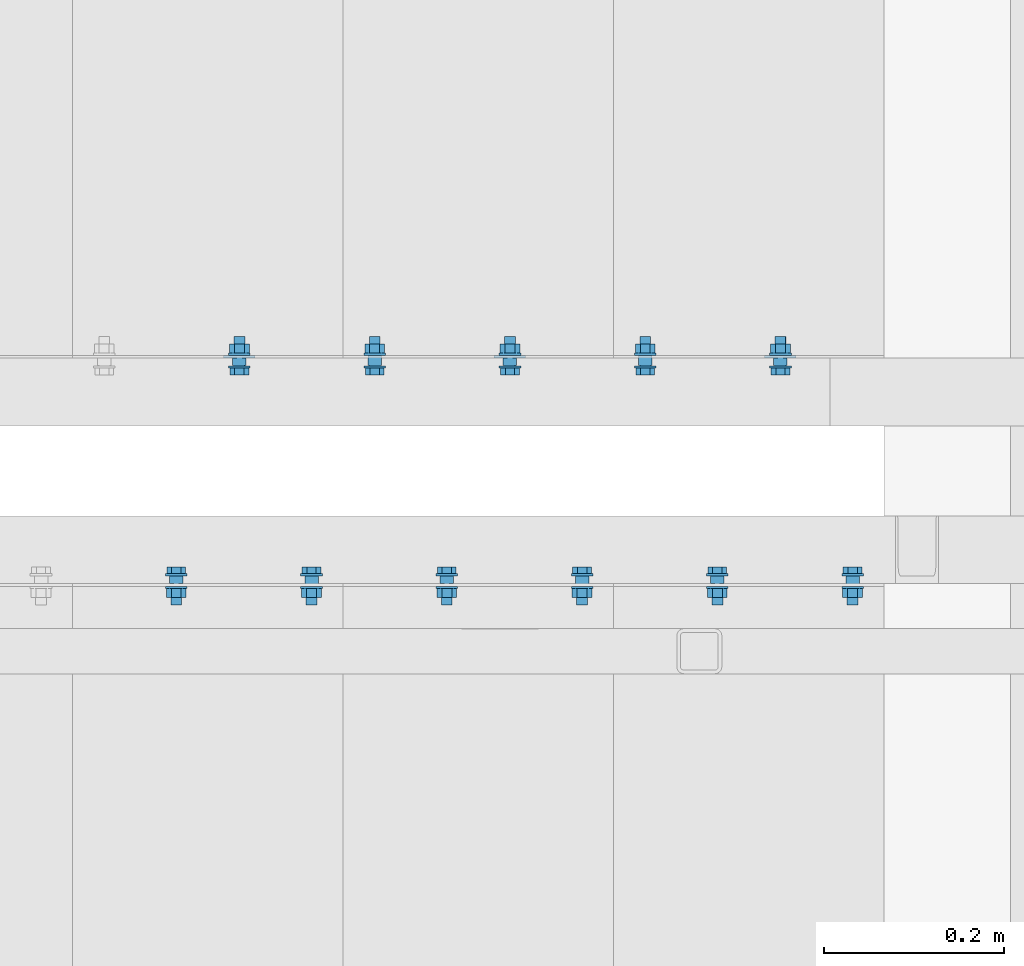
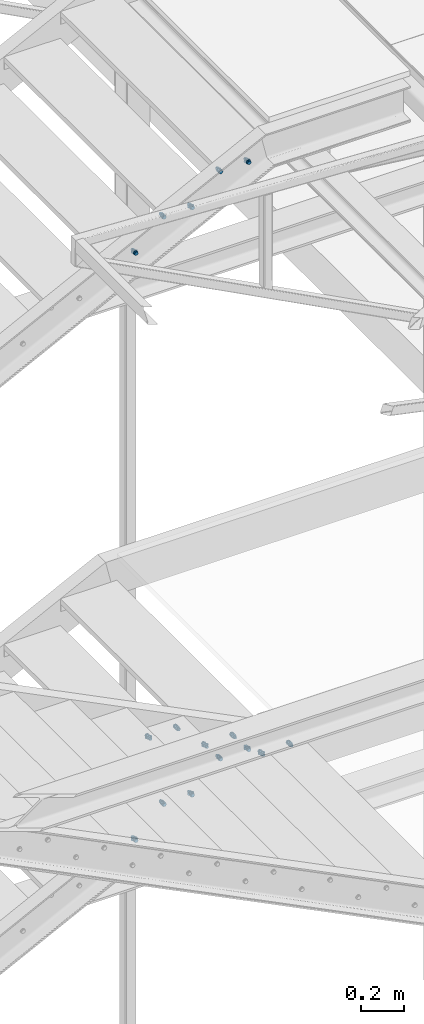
# One storey, part 108 of 132: 16 mechanical fasteners, 9 elements without a shape of their own.
"""IFC2X3 building model written with IfcOpenShell, lengths in millimetres."""

from ifc_helpers import new_model, si_unit, frame, frame_2d, origin_with_axes, origin_2d_with_axis, place, context, subcontext, project, spatial, polyline, circle_curve, parameter, trimmed, segment, composite_curve, circle, outline, extrude, source, transform, mapped, material, type_object, element, aggregate, save


model = new_model("IFC2X3")

# Units and contexts
model_context = context("Model", 3, precision=1e-05, world=origin_with_axes())
body_context = subcontext(model_context, "Body", "Model", "MODEL_VIEW")
ifc_project = project(units=[si_unit("LENGTHUNIT", "METRE", prefix="MILLI"), si_unit("AREAUNIT", "SQUARE_METRE"), si_unit("VOLUMEUNIT", "CUBIC_METRE"), si_unit("MASSUNIT", "GRAM", prefix="KILO"), si_unit("TIMEUNIT", "SECOND"), si_unit("PLANEANGLEUNIT", "RADIAN"), si_unit("SOLIDANGLEUNIT", "STERADIAN"), si_unit("THERMODYNAMICTEMPERATUREUNIT", "DEGREE_CELSIUS"), si_unit("LUMINOUSINTENSITYUNIT", "LUMEN")], contexts=[model_context])

# Site, building, storey
site_placement = place(None, origin_with_axes())
site = spatial("IfcSite", under=ifc_project, at=site_placement, Name="Budowa", CompositionType="ELEMENT")
building_placement = place(site_placement, origin_with_axes())
building = spatial("IfcBuilding", under=site, at=building_placement, Name="Undefined", CompositionType="ELEMENT")
storey_placement = place(building_placement, origin_with_axes())
storey = spatial("IfcBuildingStorey", under=building, at=storey_placement, Name="Undefined", CompositionType="ELEMENT", Elevation=0.0)

# Assembly, mechanical fastener
assembly_1_placement = place(storey_placement, origin_with_axes())
assembly_1 = element("IfcElementAssembly", 1, at=assembly_1_placement, inside=storey, Name="Steel Assembly", AssemblyPlace="NOTDEFINED", PredefinedType="RIGID_FRAME")
ifc_material = material(Name="Undefined")
discrete_accessory_type = type_object("IfcDiscreteAccessoryType", Name="Bolt assembly")
shared_shape_1 = source(origin_with_axes(), body_context, "Body", "SweptSolid", [
    extrude(circle(Radius=7.5, at=origin_2d_with_axis()), frame((0.0, -8.40000000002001, 0.0), z_axis=(0.0, 1.0, 0.0), x_axis=(1.0, 0.0, 0.0)), (0.0, 0.0, 1.0), 8.5),
    extrude(circle(Radius=7.5, at=origin_2d_with_axis()), frame((0.0, -0.1, 0.0), z_axis=(0.0, 1.0, 0.0), x_axis=(1.0, 0.0, 0.0)), (0.0, 0.0, 1.0), 3.1),
    extrude(outline(polyline([(10.39230484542, 0.0), (5.19615242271, 9.00000000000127), (-5.19615242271, 9.00000000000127), (-10.39230484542, 0.0), (-5.19615242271, -9.00000000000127), (5.19615242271, -9.00000000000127), (10.39230484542, 0.0)])), frame((0.0, -18.50000000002, 0.0), z_axis=(0.0, 1.0, 0.0), x_axis=(1.0, 0.0, 0.0)), (0.0, 0.0, 1.0), 7.5),
    extrude(circle(Radius=6.0, at=origin_2d_with_axis()), frame((0.0, -11.00000000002, 0.0), z_axis=(0.0, 1.0, 0.0), x_axis=(1.0, 0.0, 0.0)), (0.0, 0.0, 1.0), 35.0),
    extrude(circle(Radius=12.0, at=origin_2d_with_axis()), frame((0.0, -11.00000000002, 0.0), z_axis=(0.0, 1.0, 0.0), x_axis=(1.0, 0.0, 0.0)), (0.0, 0.0, 1.0), 2.5),
    extrude(circle(Radius=12.0, at=origin_2d_with_axis()), frame((0.0, 3.0, 0.0), z_axis=(0.0, 1.0, 0.0), x_axis=(1.0, 0.0, 0.0)), (0.0, 0.0, 1.0), 2.5),
    extrude(outline(polyline([(10.96965511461, 0.0), (5.484827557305, 9.50000000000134), (-5.484827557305, 9.50000000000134), (-10.96965511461, 0.0), (-5.484827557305, -9.50000000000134), (5.484827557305, -9.50000000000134), (10.96965511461, 0.0)])), frame((0.0, 5.5, 0.0), z_axis=(0.0, 1.0, 0.0), x_axis=(1.0, 0.0, 0.0)), (0.0, 0.0, 1.0), 10.0),
])
mechanical_fastener_1_placement = place(assembly_1_placement, frame((-820.00000008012, 9525.0000000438, 13849.9999999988), z_axis=(0.0, 0.0, -1.0), x_axis=(-1.0, 0.0, 0.0)))
mechanical_fastener_1 = element("IfcMechanicalFastener", 2, at=mechanical_fastener_1_placement, type_object=discrete_accessory_type, material=ifc_material, Name="Bolt assembly", NominalDiameter=12.0, NominalLength=35.0, context=body_context, shape_type="MappedRepresentation", body=[
    mapped(shared_shape_1, transform((265.0, 0.0, 25.0))),
])

assembly_2_placement = place(storey_placement, origin_with_axes())
assembly_2 = element("IfcElementAssembly", 3, at=assembly_2_placement, inside=storey, Name="Steel Assembly", AssemblyPlace="NOTDEFINED", PredefinedType="RIGID_FRAME")
mechanical_fastener_2_placement = place(assembly_2_placement, frame((-1120.00000008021, 9525.0000000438, 13699.9999999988), z_axis=(0.0, 0.0, -1.0), x_axis=(-1.0, 0.0, 0.0)))
mechanical_fastener_2 = element("IfcMechanicalFastener", 4, at=mechanical_fastener_2_placement, type_object=discrete_accessory_type, material=ifc_material, Name="Bolt assembly", NominalDiameter=12.0, NominalLength=35.0, context=body_context, shape_type="MappedRepresentation", body=[
    mapped(shared_shape_1, transform((265.0, 0.0, 25.0))),
])

assembly_3_placement = place(storey_placement, origin_with_axes())
assembly_3 = element("IfcElementAssembly", 5, at=assembly_3_placement, inside=storey, Name="Steel Assembly", AssemblyPlace="NOTDEFINED", PredefinedType="RIGID_FRAME")
mechanical_fastener_3_placement = place(assembly_3_placement, frame((-1720.00000007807, 9275.00000004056, 11000.0000000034), z_axis=(0.0, 0.0, -1.0), x_axis=(1.0, 0.0, 0.0)))
mechanical_fastener_3 = element("IfcMechanicalFastener", 6, at=mechanical_fastener_3_placement, type_object=discrete_accessory_type, material=ifc_material, Name="Bolt assembly", NominalDiameter=12.0, NominalLength=35.0, context=body_context, shape_type="MappedRepresentation", body=[
    mapped(shared_shape_1, transform((265.0, 0.0, 25.0))),
])

assembly_4_placement = place(storey_placement, origin_with_axes())
assembly_4 = element("IfcElementAssembly", 7, at=assembly_4_placement, inside=storey, Name="Steel Assembly", AssemblyPlace="NOTDEFINED", PredefinedType="RIGID_FRAME")
mechanical_fastener_4_placement = place(assembly_4_placement, frame((-1420.00000007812, 9275.00000004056, 10850.0000000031), z_axis=(0.0, 0.0, -1.0), x_axis=(1.0, 0.0, 0.0)))
mechanical_fastener_4 = element("IfcMechanicalFastener", 8, at=mechanical_fastener_4_placement, type_object=discrete_accessory_type, material=ifc_material, Name="Bolt assembly", NominalDiameter=12.0, NominalLength=35.0, context=body_context, shape_type="MappedRepresentation", body=[
    mapped(shared_shape_1, transform((265.0, 0.0, 25.0))),
])

assembly_5_placement = place(storey_placement, origin_with_axes())
assembly_5 = element("IfcElementAssembly", 9, at=assembly_5_placement, inside=storey, Name="Steel Assembly", AssemblyPlace="NOTDEFINED", PredefinedType="RIGID_FRAME")
mechanical_fastener_5_placement = place(assembly_5_placement, frame((-1120.00000007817, 9275.00000004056, 10700.0000000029), z_axis=(0.0, 0.0, -1.0), x_axis=(1.0, 0.0, 0.0)))
mechanical_fastener_5 = element("IfcMechanicalFastener", 10, at=mechanical_fastener_5_placement, type_object=discrete_accessory_type, material=ifc_material, Name="Bolt assembly", NominalDiameter=12.0, NominalLength=35.0, context=body_context, shape_type="MappedRepresentation", body=[
    mapped(shared_shape_1, transform((265.0, 0.0, 25.0))),
])

assembly_6_placement = place(storey_placement, origin_with_axes())
assembly_6 = element("IfcElementAssembly", 11, at=assembly_6_placement, inside=storey, Name="Steel Assembly", AssemblyPlace="NOTDEFINED", PredefinedType="RIGID_FRAME")
mechanical_fastener_6_placement = place(assembly_6_placement, frame((-820.000000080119, 9525.0000000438, 10549.9999999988), z_axis=(0.0, 0.0, -1.0), x_axis=(-1.0, 0.0, 0.0)))
mechanical_fastener_6 = element("IfcMechanicalFastener", 12, at=mechanical_fastener_6_placement, type_object=discrete_accessory_type, material=ifc_material, Name="Bolt assembly", NominalDiameter=12.0, NominalLength=35.0, context=body_context, shape_type="MappedRepresentation", body=[
    mapped(shared_shape_1, transform((265.0, 0.0, 25.0))),
])

assembly_7_placement = place(storey_placement, origin_with_axes())
assembly_7 = element("IfcElementAssembly", 13, at=assembly_7_placement, inside=storey, Name="Steel Assembly", AssemblyPlace="NOTDEFINED", PredefinedType="RIGID_FRAME")
mechanical_fastener_7_placement = place(assembly_7_placement, frame((-1120.00000008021, 9525.0000000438, 10399.9999999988), z_axis=(0.0, 0.0, -1.0), x_axis=(-1.0, 0.0, 0.0)))
mechanical_fastener_7 = element("IfcMechanicalFastener", 14, at=mechanical_fastener_7_placement, type_object=discrete_accessory_type, material=ifc_material, Name="Bolt assembly", NominalDiameter=12.0, NominalLength=35.0, context=body_context, shape_type="MappedRepresentation", body=[
    mapped(shared_shape_1, transform((265.0, 0.0, 25.0))),
])

# Mechanical fastener
shared_shape_2 = source(origin_with_axes(), body_context, "Body", "SweptSolid", [
    extrude(circle(Radius=7.5, at=origin_2d_with_axis()), frame((0.0, -8.40000000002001, 0.0), z_axis=(0.0, 1.0, 0.0), x_axis=(1.0, 0.0, 0.0)), (0.0, 0.0, 1.0), 8.5),
    extrude(outline(composite_curve([segment(polyline([(-10.0, 7.5), (10.0, 7.5)]), True, "CONTINUOUS"), segment(trimmed(circle_curve(frame_2d((10.0, 0.0), x_axis=(0.0, 1.0)), 7.5), [parameter(0.0)], [parameter(3.14159265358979)], False, "PARAMETER"), True, "CONTINUOUS"), segment(polyline([(10.0, -7.5), (-10.0, -7.5)]), True, "CONTINUOUS"), segment(trimmed(circle_curve(frame_2d((-10.0, 0.0), x_axis=(0.0, -1.0)), 7.5), [parameter(0.0)], [parameter(3.14159265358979)], False, "PARAMETER"), True, "DISCONTINUOUS")], self_intersect=False)), frame((0.0, -0.1, 0.0), z_axis=(0.0, 1.0, 0.0), x_axis=(1.0, 0.0, 0.0)), (0.0, 0.0, 1.0), 3.1),
    extrude(outline(polyline([(10.39230484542, 0.0), (5.19615242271, 9.00000000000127), (-5.19615242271, 9.00000000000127), (-10.39230484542, 0.0), (-5.19615242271, -9.00000000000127), (5.19615242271, -9.00000000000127), (10.39230484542, 0.0)])), frame((0.0, -18.50000000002, 0.0), z_axis=(0.0, 1.0, 0.0), x_axis=(1.0, 0.0, 0.0)), (0.0, 0.0, 1.0), 7.5),
    extrude(circle(Radius=6.0, at=origin_2d_with_axis()), frame((0.0, -11.00000000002, 0.0), z_axis=(0.0, 1.0, 0.0), x_axis=(1.0, 0.0, 0.0)), (0.0, 0.0, 1.0), 35.0),
    extrude(circle(Radius=12.0, at=origin_2d_with_axis()), frame((0.0, -11.00000000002, 0.0), z_axis=(0.0, 1.0, 0.0), x_axis=(1.0, 0.0, 0.0)), (0.0, 0.0, 1.0), 2.5),
    extrude(circle(Radius=12.0, at=origin_2d_with_axis()), frame((0.0, 3.0, 0.0), z_axis=(0.0, 1.0, 0.0), x_axis=(1.0, 0.0, 0.0)), (0.0, 0.0, 1.0), 2.5),
    extrude(outline(polyline([(10.96965511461, 0.0), (5.484827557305, 9.50000000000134), (-5.484827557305, 9.50000000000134), (-10.96965511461, 0.0), (-5.484827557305, -9.50000000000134), (5.484827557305, -9.50000000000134), (10.96965511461, 0.0)])), frame((0.0, 5.5, 0.0), z_axis=(0.0, 1.0, 0.0), x_axis=(1.0, 0.0, 0.0)), (0.0, 0.0, 1.0), 10.0),
])
mechanical_fastener_8_placement = place(assembly_1_placement, frame((-820.00000008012, 9525.0000000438, 13849.9999999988), z_axis=(0.0, 0.0, -1.0), x_axis=(-1.0, 0.0, 0.0)))
mechanical_fastener_8 = element("IfcMechanicalFastener", 15, at=mechanical_fastener_8_placement, type_object=discrete_accessory_type, material=ifc_material, Name="Bolt assembly", NominalDiameter=12.0, NominalLength=35.0, context=body_context, shape_type="MappedRepresentation", body=[
    mapped(shared_shape_2, transform((115.0, 0.0, 25.0))),
])

aggregate(assembly_1, [mechanical_fastener_8, mechanical_fastener_1])

shared_shape_3 = source(origin_with_axes(), body_context, "Body", "SweptSolid", [
    extrude(circle(Radius=7.5, at=origin_2d_with_axis()), frame((0.0, -8.40000000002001, 0.0), z_axis=(0.0, 1.0, 0.0), x_axis=(1.0, 0.0, 0.0)), (0.0, 0.0, 1.0), 8.5),
    extrude(outline(composite_curve([segment(polyline([(-10.0, 7.5), (10.0, 7.5)]), True, "CONTINUOUS"), segment(trimmed(circle_curve(frame_2d((10.0, 0.0), x_axis=(0.0, 1.0)), 7.5), [parameter(0.0)], [parameter(3.14159265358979)], False, "PARAMETER"), True, "CONTINUOUS"), segment(polyline([(10.0, -7.5), (-10.0, -7.5)]), True, "CONTINUOUS"), segment(trimmed(circle_curve(frame_2d((-10.0, 0.0), x_axis=(0.0, -1.0)), 7.5), [parameter(0.0)], [parameter(3.14159265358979)], False, "PARAMETER"), True, "DISCONTINUOUS")], self_intersect=False)), frame((0.0, -0.1, 0.0), z_axis=(0.0, 1.0, 0.0), x_axis=(1.0, 0.0, 0.0)), (0.0, 0.0, 1.0), 3.1),
    extrude(outline(polyline([(10.39230484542, 0.0), (5.19615242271, 9.00000000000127), (-5.19615242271, 9.00000000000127), (-10.39230484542, 0.0), (-5.19615242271, -9.00000000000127), (5.19615242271, -9.00000000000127), (10.39230484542, 0.0)])), frame((0.0, -18.50000000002, 0.0), z_axis=(0.0, 1.0, 0.0), x_axis=(1.0, 0.0, 0.0)), (0.0, 0.0, 1.0), 7.5),
    extrude(circle(Radius=6.0, at=origin_2d_with_axis()), frame((0.0, -11.00000000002, 0.0), z_axis=(0.0, 1.0, 0.0), x_axis=(1.0, 0.0, 0.0)), (0.0, 0.0, 1.0), 35.0),
    extrude(circle(Radius=12.0, at=origin_2d_with_axis()), frame((0.0, -11.00000000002, 0.0), z_axis=(0.0, 1.0, 0.0), x_axis=(1.0, 0.0, 0.0)), (0.0, 0.0, 1.0), 2.5),
    extrude(circle(Radius=12.0, at=origin_2d_with_axis()), frame((0.0, 3.0, 0.0), z_axis=(0.0, 1.0, 0.0), x_axis=(1.0, 0.0, 0.0)), (0.0, 0.0, 1.0), 2.5),
    extrude(outline(polyline([(10.96965511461, 0.0), (5.484827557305, 9.50000000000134), (-5.484827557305, 9.50000000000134), (-10.96965511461, 0.0), (-5.484827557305, -9.50000000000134), (5.484827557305, -9.50000000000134), (10.96965511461, 0.0)])), frame((0.0, 5.5, 0.0), z_axis=(0.0, 1.0, 0.0), x_axis=(1.0, 0.0, 0.0)), (0.0, 0.0, 1.0), 10.0),
])
mechanical_fastener_9_placement = place(assembly_2_placement, frame((-1120.00000008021, 9525.0000000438, 13699.9999999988), z_axis=(0.0, 0.0, -1.0), x_axis=(-1.0, 0.0, 0.0)))
mechanical_fastener_9 = element("IfcMechanicalFastener", 16, at=mechanical_fastener_9_placement, type_object=discrete_accessory_type, material=ifc_material, Name="Bolt assembly", NominalDiameter=12.0, NominalLength=35.0, context=body_context, shape_type="MappedRepresentation", body=[
    mapped(shared_shape_3, transform((115.0, 0.0, 25.0))),
])

aggregate(assembly_2, [mechanical_fastener_9, mechanical_fastener_2])

# Assembly, mechanical fastener
assembly_8_placement = place(storey_placement, origin_with_axes())
assembly_8 = element("IfcElementAssembly", 17, at=assembly_8_placement, inside=storey, Name="Steel Assembly", AssemblyPlace="NOTDEFINED", PredefinedType="RIGID_FRAME")
shared_shape_4 = source(origin_with_axes(), body_context, "Body", "SweptSolid", [
    extrude(circle(Radius=7.5, at=origin_2d_with_axis()), frame((0.0, -8.40000000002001, 0.0), z_axis=(0.0, 1.0, 0.0), x_axis=(1.0, 0.0, 0.0)), (0.0, 0.0, 1.0), 8.5),
    extrude(outline(composite_curve([segment(polyline([(-10.0, 7.5), (10.0, 7.5)]), True, "CONTINUOUS"), segment(trimmed(circle_curve(frame_2d((10.0, 0.0), x_axis=(0.0, 1.0)), 7.5), [parameter(0.0)], [parameter(3.14159265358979)], False, "PARAMETER"), True, "CONTINUOUS"), segment(polyline([(10.0, -7.5), (-10.0, -7.5)]), True, "CONTINUOUS"), segment(trimmed(circle_curve(frame_2d((-10.0, 0.0), x_axis=(0.0, -1.0)), 7.5), [parameter(0.0)], [parameter(3.14159265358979)], False, "PARAMETER"), True, "DISCONTINUOUS")], self_intersect=False)), frame((0.0, -0.1, 0.0), z_axis=(0.0, 1.0, 0.0), x_axis=(1.0, 0.0, 0.0)), (0.0, 0.0, 1.0), 3.1),
    extrude(outline(polyline([(10.39230484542, 0.0), (5.19615242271, 9.00000000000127), (-5.19615242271, 9.00000000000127), (-10.39230484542, 0.0), (-5.19615242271, -9.00000000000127), (5.19615242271, -9.00000000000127), (10.39230484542, 0.0)])), frame((0.0, -18.50000000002, 0.0), z_axis=(0.0, 1.0, 0.0), x_axis=(1.0, 0.0, 0.0)), (0.0, 0.0, 1.0), 7.5),
    extrude(circle(Radius=6.0, at=origin_2d_with_axis()), frame((0.0, -11.00000000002, 0.0), z_axis=(0.0, 1.0, 0.0), x_axis=(1.0, 0.0, 0.0)), (0.0, 0.0, 1.0), 35.0),
    extrude(circle(Radius=12.0, at=origin_2d_with_axis()), frame((0.0, -11.00000000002, 0.0), z_axis=(0.0, 1.0, 0.0), x_axis=(1.0, 0.0, 0.0)), (0.0, 0.0, 1.0), 2.5),
    extrude(circle(Radius=12.0, at=origin_2d_with_axis()), frame((0.0, 3.0, 0.0), z_axis=(0.0, 1.0, 0.0), x_axis=(1.0, 0.0, 0.0)), (0.0, 0.0, 1.0), 2.5),
    extrude(outline(polyline([(10.96965511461, 0.0), (5.484827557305, 9.50000000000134), (-5.484827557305, 9.50000000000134), (-10.96965511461, 0.0), (-5.484827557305, -9.50000000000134), (5.484827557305, -9.50000000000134), (10.96965511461, 0.0)])), frame((0.0, 5.5, 0.0), z_axis=(0.0, 1.0, 0.0), x_axis=(1.0, 0.0, 0.0)), (0.0, 0.0, 1.0), 10.0),
])
mechanical_fastener_10_placement = place(assembly_8_placement, frame((-1420.0000000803, 9525.0000000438, 13549.9999999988), z_axis=(0.0, 0.0, -1.0), x_axis=(-1.0, 0.0, 0.0)))
mechanical_fastener_10 = element("IfcMechanicalFastener", 18, at=mechanical_fastener_10_placement, type_object=discrete_accessory_type, material=ifc_material, Name="Bolt assembly", NominalDiameter=12.0, NominalLength=35.0, context=body_context, shape_type="MappedRepresentation", body=[
    mapped(shared_shape_4, transform((115.0, 0.0, 25.0))),
])
aggregate(assembly_8, [mechanical_fastener_10])

# Mechanical fastener
shared_shape_5 = source(origin_with_axes(), body_context, "Body", "SweptSolid", [
    extrude(circle(Radius=7.5, at=origin_2d_with_axis()), frame((0.0, -8.40000000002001, 0.0), z_axis=(0.0, 1.0, 0.0), x_axis=(1.0, 0.0, 0.0)), (0.0, 0.0, 1.0), 8.5),
    extrude(outline(composite_curve([segment(polyline([(-10.0, 7.5), (10.0, 7.5)]), True, "CONTINUOUS"), segment(trimmed(circle_curve(frame_2d((10.0, 0.0), x_axis=(0.0, 1.0)), 7.5), [parameter(0.0)], [parameter(3.14159265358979)], False, "PARAMETER"), True, "CONTINUOUS"), segment(polyline([(10.0, -7.5), (-10.0, -7.5)]), True, "CONTINUOUS"), segment(trimmed(circle_curve(frame_2d((-10.0, 0.0), x_axis=(0.0, -1.0)), 7.5), [parameter(0.0)], [parameter(3.14159265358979)], False, "PARAMETER"), True, "DISCONTINUOUS")], self_intersect=False)), frame((0.0, -0.1, 0.0), z_axis=(0.0, 1.0, 0.0), x_axis=(1.0, 0.0, 0.0)), (0.0, 0.0, 1.0), 3.1),
    extrude(outline(polyline([(10.39230484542, 0.0), (5.19615242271, 9.00000000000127), (-5.19615242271, 9.00000000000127), (-10.39230484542, 0.0), (-5.19615242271, -9.00000000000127), (5.19615242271, -9.00000000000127), (10.39230484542, 0.0)])), frame((0.0, -18.50000000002, 0.0), z_axis=(0.0, 1.0, 0.0), x_axis=(1.0, 0.0, 0.0)), (0.0, 0.0, 1.0), 7.5),
    extrude(circle(Radius=6.0, at=origin_2d_with_axis()), frame((0.0, -11.00000000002, 0.0), z_axis=(0.0, 1.0, 0.0), x_axis=(1.0, 0.0, 0.0)), (0.0, 0.0, 1.0), 35.0),
    extrude(circle(Radius=12.0, at=origin_2d_with_axis()), frame((0.0, -11.00000000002, 0.0), z_axis=(0.0, 1.0, 0.0), x_axis=(1.0, 0.0, 0.0)), (0.0, 0.0, 1.0), 2.5),
    extrude(circle(Radius=12.0, at=origin_2d_with_axis()), frame((0.0, 3.0, 0.0), z_axis=(0.0, 1.0, 0.0), x_axis=(1.0, 0.0, 0.0)), (0.0, 0.0, 1.0), 2.5),
    extrude(outline(polyline([(10.96965511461, 0.0), (5.484827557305, 9.50000000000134), (-5.484827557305, 9.50000000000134), (-10.96965511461, 0.0), (-5.484827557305, -9.50000000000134), (5.484827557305, -9.50000000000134), (10.96965511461, 0.0)])), frame((0.0, 5.5, 0.0), z_axis=(0.0, 1.0, 0.0), x_axis=(1.0, 0.0, 0.0)), (0.0, 0.0, 1.0), 10.0),
])
mechanical_fastener_11_placement = place(assembly_3_placement, frame((-1720.00000007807, 9275.00000004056, 11000.0000000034), z_axis=(0.0, 0.0, -1.0), x_axis=(1.0, 0.0, 0.0)))
mechanical_fastener_11 = element("IfcMechanicalFastener", 19, at=mechanical_fastener_11_placement, type_object=discrete_accessory_type, material=ifc_material, Name="Bolt assembly", NominalDiameter=12.0, NominalLength=35.0, context=body_context, shape_type="MappedRepresentation", body=[
    mapped(shared_shape_5, transform((115.0, 0.0, 25.0))),
])

aggregate(assembly_3, [mechanical_fastener_11, mechanical_fastener_3])

shared_shape_6 = source(origin_with_axes(), body_context, "Body", "SweptSolid", [
    extrude(circle(Radius=7.5, at=origin_2d_with_axis()), frame((0.0, -8.40000000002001, 0.0), z_axis=(0.0, 1.0, 0.0), x_axis=(1.0, 0.0, 0.0)), (0.0, 0.0, 1.0), 8.5),
    extrude(outline(composite_curve([segment(polyline([(-10.0, 7.5), (10.0, 7.5)]), True, "CONTINUOUS"), segment(trimmed(circle_curve(frame_2d((10.0, 0.0), x_axis=(0.0, 1.0)), 7.5), [parameter(0.0)], [parameter(3.14159265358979)], False, "PARAMETER"), True, "CONTINUOUS"), segment(polyline([(10.0, -7.5), (-10.0, -7.5)]), True, "CONTINUOUS"), segment(trimmed(circle_curve(frame_2d((-10.0, 0.0), x_axis=(0.0, -1.0)), 7.5), [parameter(0.0)], [parameter(3.14159265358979)], False, "PARAMETER"), True, "DISCONTINUOUS")], self_intersect=False)), frame((0.0, -0.1, 0.0), z_axis=(0.0, 1.0, 0.0), x_axis=(1.0, 0.0, 0.0)), (0.0, 0.0, 1.0), 3.1),
    extrude(outline(polyline([(10.39230484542, 0.0), (5.19615242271, 9.00000000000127), (-5.19615242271, 9.00000000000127), (-10.39230484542, 0.0), (-5.19615242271, -9.00000000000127), (5.19615242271, -9.00000000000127), (10.39230484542, 0.0)])), frame((0.0, -18.50000000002, 0.0), z_axis=(0.0, 1.0, 0.0), x_axis=(1.0, 0.0, 0.0)), (0.0, 0.0, 1.0), 7.5),
    extrude(circle(Radius=6.0, at=origin_2d_with_axis()), frame((0.0, -11.00000000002, 0.0), z_axis=(0.0, 1.0, 0.0), x_axis=(1.0, 0.0, 0.0)), (0.0, 0.0, 1.0), 35.0),
    extrude(circle(Radius=12.0, at=origin_2d_with_axis()), frame((0.0, -11.00000000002, 0.0), z_axis=(0.0, 1.0, 0.0), x_axis=(1.0, 0.0, 0.0)), (0.0, 0.0, 1.0), 2.5),
    extrude(circle(Radius=12.0, at=origin_2d_with_axis()), frame((0.0, 3.0, 0.0), z_axis=(0.0, 1.0, 0.0), x_axis=(1.0, 0.0, 0.0)), (0.0, 0.0, 1.0), 2.5),
    extrude(outline(polyline([(10.96965511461, 0.0), (5.484827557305, 9.50000000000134), (-5.484827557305, 9.50000000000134), (-10.96965511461, 0.0), (-5.484827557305, -9.50000000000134), (5.484827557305, -9.50000000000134), (10.96965511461, 0.0)])), frame((0.0, 5.5, 0.0), z_axis=(0.0, 1.0, 0.0), x_axis=(1.0, 0.0, 0.0)), (0.0, 0.0, 1.0), 10.0),
])
mechanical_fastener_12_placement = place(assembly_4_placement, frame((-1420.00000007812, 9275.00000004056, 10850.0000000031), z_axis=(0.0, 0.0, -1.0), x_axis=(1.0, 0.0, 0.0)))
mechanical_fastener_12 = element("IfcMechanicalFastener", 20, at=mechanical_fastener_12_placement, type_object=discrete_accessory_type, material=ifc_material, Name="Bolt assembly", NominalDiameter=12.0, NominalLength=35.0, context=body_context, shape_type="MappedRepresentation", body=[
    mapped(shared_shape_6, transform((115.0, 0.0, 25.0))),
])

aggregate(assembly_4, [mechanical_fastener_12, mechanical_fastener_4])

shared_shape_7 = source(origin_with_axes(), body_context, "Body", "SweptSolid", [
    extrude(circle(Radius=7.5, at=origin_2d_with_axis()), frame((0.0, -8.40000000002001, 0.0), z_axis=(0.0, 1.0, 0.0), x_axis=(1.0, 0.0, 0.0)), (0.0, 0.0, 1.0), 8.5),
    extrude(outline(composite_curve([segment(polyline([(-10.0, 7.5), (10.0, 7.5)]), True, "CONTINUOUS"), segment(trimmed(circle_curve(frame_2d((10.0, 0.0), x_axis=(0.0, 1.0)), 7.5), [parameter(0.0)], [parameter(3.14159265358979)], False, "PARAMETER"), True, "CONTINUOUS"), segment(polyline([(10.0, -7.5), (-10.0, -7.5)]), True, "CONTINUOUS"), segment(trimmed(circle_curve(frame_2d((-10.0, 0.0), x_axis=(0.0, -1.0)), 7.5), [parameter(0.0)], [parameter(3.14159265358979)], False, "PARAMETER"), True, "DISCONTINUOUS")], self_intersect=False)), frame((0.0, -0.1, 0.0), z_axis=(0.0, 1.0, 0.0), x_axis=(1.0, 0.0, 0.0)), (0.0, 0.0, 1.0), 3.1),
    extrude(outline(polyline([(10.39230484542, 0.0), (5.19615242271, 9.00000000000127), (-5.19615242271, 9.00000000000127), (-10.39230484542, 0.0), (-5.19615242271, -9.00000000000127), (5.19615242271, -9.00000000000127), (10.39230484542, 0.0)])), frame((0.0, -18.50000000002, 0.0), z_axis=(0.0, 1.0, 0.0), x_axis=(1.0, 0.0, 0.0)), (0.0, 0.0, 1.0), 7.5),
    extrude(circle(Radius=6.0, at=origin_2d_with_axis()), frame((0.0, -11.00000000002, 0.0), z_axis=(0.0, 1.0, 0.0), x_axis=(1.0, 0.0, 0.0)), (0.0, 0.0, 1.0), 35.0),
    extrude(circle(Radius=12.0, at=origin_2d_with_axis()), frame((0.0, -11.00000000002, 0.0), z_axis=(0.0, 1.0, 0.0), x_axis=(1.0, 0.0, 0.0)), (0.0, 0.0, 1.0), 2.5),
    extrude(circle(Radius=12.0, at=origin_2d_with_axis()), frame((0.0, 3.0, 0.0), z_axis=(0.0, 1.0, 0.0), x_axis=(1.0, 0.0, 0.0)), (0.0, 0.0, 1.0), 2.5),
    extrude(outline(polyline([(10.96965511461, 0.0), (5.484827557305, 9.50000000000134), (-5.484827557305, 9.50000000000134), (-10.96965511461, 0.0), (-5.484827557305, -9.50000000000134), (5.484827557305, -9.50000000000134), (10.96965511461, 0.0)])), frame((0.0, 5.5, 0.0), z_axis=(0.0, 1.0, 0.0), x_axis=(1.0, 0.0, 0.0)), (0.0, 0.0, 1.0), 10.0),
])
mechanical_fastener_13_placement = place(assembly_5_placement, frame((-1120.00000007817, 9275.00000004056, 10700.0000000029), z_axis=(0.0, 0.0, -1.0), x_axis=(1.0, 0.0, 0.0)))
mechanical_fastener_13 = element("IfcMechanicalFastener", 21, at=mechanical_fastener_13_placement, type_object=discrete_accessory_type, material=ifc_material, Name="Bolt assembly", NominalDiameter=12.0, NominalLength=35.0, context=body_context, shape_type="MappedRepresentation", body=[
    mapped(shared_shape_7, transform((115.0, 0.0, 25.0))),
])

aggregate(assembly_5, [mechanical_fastener_13, mechanical_fastener_5])

shared_shape_8 = source(origin_with_axes(), body_context, "Body", "SweptSolid", [
    extrude(circle(Radius=7.5, at=origin_2d_with_axis()), frame((0.0, -8.40000000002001, 0.0), z_axis=(0.0, 1.0, 0.0), x_axis=(1.0, 0.0, 0.0)), (0.0, 0.0, 1.0), 8.5),
    extrude(outline(composite_curve([segment(polyline([(-10.0, 7.5), (10.0, 7.5)]), True, "CONTINUOUS"), segment(trimmed(circle_curve(frame_2d((10.0, 0.0), x_axis=(0.0, 1.0)), 7.5), [parameter(0.0)], [parameter(3.14159265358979)], False, "PARAMETER"), True, "CONTINUOUS"), segment(polyline([(10.0, -7.5), (-10.0, -7.5)]), True, "CONTINUOUS"), segment(trimmed(circle_curve(frame_2d((-10.0, 0.0), x_axis=(0.0, -1.0)), 7.5), [parameter(0.0)], [parameter(3.14159265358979)], False, "PARAMETER"), True, "DISCONTINUOUS")], self_intersect=False)), frame((0.0, -0.1, 0.0), z_axis=(0.0, 1.0, 0.0), x_axis=(1.0, 0.0, 0.0)), (0.0, 0.0, 1.0), 3.1),
    extrude(outline(polyline([(10.39230484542, 0.0), (5.19615242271, 9.00000000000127), (-5.19615242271, 9.00000000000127), (-10.39230484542, 0.0), (-5.19615242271, -9.00000000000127), (5.19615242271, -9.00000000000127), (10.39230484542, 0.0)])), frame((0.0, -18.50000000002, 0.0), z_axis=(0.0, 1.0, 0.0), x_axis=(1.0, 0.0, 0.0)), (0.0, 0.0, 1.0), 7.5),
    extrude(circle(Radius=6.0, at=origin_2d_with_axis()), frame((0.0, -11.00000000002, 0.0), z_axis=(0.0, 1.0, 0.0), x_axis=(1.0, 0.0, 0.0)), (0.0, 0.0, 1.0), 35.0),
    extrude(circle(Radius=12.0, at=origin_2d_with_axis()), frame((0.0, -11.00000000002, 0.0), z_axis=(0.0, 1.0, 0.0), x_axis=(1.0, 0.0, 0.0)), (0.0, 0.0, 1.0), 2.5),
    extrude(circle(Radius=12.0, at=origin_2d_with_axis()), frame((0.0, 3.0, 0.0), z_axis=(0.0, 1.0, 0.0), x_axis=(1.0, 0.0, 0.0)), (0.0, 0.0, 1.0), 2.5),
    extrude(outline(polyline([(10.96965511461, 0.0), (5.484827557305, 9.50000000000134), (-5.484827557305, 9.50000000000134), (-10.96965511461, 0.0), (-5.484827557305, -9.50000000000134), (5.484827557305, -9.50000000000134), (10.96965511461, 0.0)])), frame((0.0, 5.5, 0.0), z_axis=(0.0, 1.0, 0.0), x_axis=(1.0, 0.0, 0.0)), (0.0, 0.0, 1.0), 10.0),
])
mechanical_fastener_14_placement = place(assembly_6_placement, frame((-820.000000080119, 9525.0000000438, 10549.9999999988), z_axis=(0.0, 0.0, -1.0), x_axis=(-1.0, 0.0, 0.0)))
mechanical_fastener_14 = element("IfcMechanicalFastener", 22, at=mechanical_fastener_14_placement, type_object=discrete_accessory_type, material=ifc_material, Name="Bolt assembly", NominalDiameter=12.0, NominalLength=35.0, context=body_context, shape_type="MappedRepresentation", body=[
    mapped(shared_shape_8, transform((115.0, 0.0, 25.0))),
])

aggregate(assembly_6, [mechanical_fastener_14, mechanical_fastener_6])

shared_shape_9 = source(origin_with_axes(), body_context, "Body", "SweptSolid", [
    extrude(circle(Radius=7.5, at=origin_2d_with_axis()), frame((0.0, -8.40000000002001, 0.0), z_axis=(0.0, 1.0, 0.0), x_axis=(1.0, 0.0, 0.0)), (0.0, 0.0, 1.0), 8.5),
    extrude(outline(composite_curve([segment(polyline([(-10.0, 7.5), (10.0, 7.5)]), True, "CONTINUOUS"), segment(trimmed(circle_curve(frame_2d((10.0, 0.0), x_axis=(0.0, 1.0)), 7.5), [parameter(0.0)], [parameter(3.14159265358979)], False, "PARAMETER"), True, "CONTINUOUS"), segment(polyline([(10.0, -7.5), (-10.0, -7.5)]), True, "CONTINUOUS"), segment(trimmed(circle_curve(frame_2d((-10.0, 0.0), x_axis=(0.0, -1.0)), 7.5), [parameter(0.0)], [parameter(3.14159265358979)], False, "PARAMETER"), True, "DISCONTINUOUS")], self_intersect=False)), frame((0.0, -0.1, 0.0), z_axis=(0.0, 1.0, 0.0), x_axis=(1.0, 0.0, 0.0)), (0.0, 0.0, 1.0), 3.1),
    extrude(outline(polyline([(10.39230484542, 0.0), (5.19615242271, 9.00000000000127), (-5.19615242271, 9.00000000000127), (-10.39230484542, 0.0), (-5.19615242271, -9.00000000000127), (5.19615242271, -9.00000000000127), (10.39230484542, 0.0)])), frame((0.0, -18.50000000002, 0.0), z_axis=(0.0, 1.0, 0.0), x_axis=(1.0, 0.0, 0.0)), (0.0, 0.0, 1.0), 7.5),
    extrude(circle(Radius=6.0, at=origin_2d_with_axis()), frame((0.0, -11.00000000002, 0.0), z_axis=(0.0, 1.0, 0.0), x_axis=(1.0, 0.0, 0.0)), (0.0, 0.0, 1.0), 35.0),
    extrude(circle(Radius=12.0, at=origin_2d_with_axis()), frame((0.0, -11.00000000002, 0.0), z_axis=(0.0, 1.0, 0.0), x_axis=(1.0, 0.0, 0.0)), (0.0, 0.0, 1.0), 2.5),
    extrude(circle(Radius=12.0, at=origin_2d_with_axis()), frame((0.0, 3.0, 0.0), z_axis=(0.0, 1.0, 0.0), x_axis=(1.0, 0.0, 0.0)), (0.0, 0.0, 1.0), 2.5),
    extrude(outline(polyline([(10.96965511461, 0.0), (5.484827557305, 9.50000000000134), (-5.484827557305, 9.50000000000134), (-10.96965511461, 0.0), (-5.484827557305, -9.50000000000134), (5.484827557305, -9.50000000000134), (10.96965511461, 0.0)])), frame((0.0, 5.5, 0.0), z_axis=(0.0, 1.0, 0.0), x_axis=(1.0, 0.0, 0.0)), (0.0, 0.0, 1.0), 10.0),
])
mechanical_fastener_15_placement = place(assembly_7_placement, frame((-1120.00000008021, 9525.0000000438, 10399.9999999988), z_axis=(0.0, 0.0, -1.0), x_axis=(-1.0, 0.0, 0.0)))
mechanical_fastener_15 = element("IfcMechanicalFastener", 23, at=mechanical_fastener_15_placement, type_object=discrete_accessory_type, material=ifc_material, Name="Bolt assembly", NominalDiameter=12.0, NominalLength=35.0, context=body_context, shape_type="MappedRepresentation", body=[
    mapped(shared_shape_9, transform((115.0, 0.0, 25.0))),
])

aggregate(assembly_7, [mechanical_fastener_15, mechanical_fastener_7])

# Assembly, mechanical fastener
assembly_9_placement = place(storey_placement, origin_with_axes())
assembly_9 = element("IfcElementAssembly", 24, at=assembly_9_placement, inside=storey, Name="Steel Assembly", AssemblyPlace="NOTDEFINED", PredefinedType="RIGID_FRAME")
shared_shape_10 = source(origin_with_axes(), body_context, "Body", "SweptSolid", [
    extrude(circle(Radius=7.5, at=origin_2d_with_axis()), frame((0.0, -8.40000000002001, 0.0), z_axis=(0.0, 1.0, 0.0), x_axis=(1.0, 0.0, 0.0)), (0.0, 0.0, 1.0), 8.5),
    extrude(outline(composite_curve([segment(polyline([(-10.0, 7.5), (10.0, 7.5)]), True, "CONTINUOUS"), segment(trimmed(circle_curve(frame_2d((10.0, 0.0), x_axis=(0.0, 1.0)), 7.5), [parameter(0.0)], [parameter(3.14159265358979)], False, "PARAMETER"), True, "CONTINUOUS"), segment(polyline([(10.0, -7.5), (-10.0, -7.5)]), True, "CONTINUOUS"), segment(trimmed(circle_curve(frame_2d((-10.0, 0.0), x_axis=(0.0, -1.0)), 7.5), [parameter(0.0)], [parameter(3.14159265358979)], False, "PARAMETER"), True, "DISCONTINUOUS")], self_intersect=False)), frame((0.0, -0.1, 0.0), z_axis=(0.0, 1.0, 0.0), x_axis=(1.0, 0.0, 0.0)), (0.0, 0.0, 1.0), 3.1),
    extrude(outline(polyline([(10.39230484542, 0.0), (5.19615242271, 9.00000000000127), (-5.19615242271, 9.00000000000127), (-10.39230484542, 0.0), (-5.19615242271, -9.00000000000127), (5.19615242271, -9.00000000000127), (10.39230484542, 0.0)])), frame((0.0, -18.50000000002, 0.0), z_axis=(0.0, 1.0, 0.0), x_axis=(1.0, 0.0, 0.0)), (0.0, 0.0, 1.0), 7.5),
    extrude(circle(Radius=6.0, at=origin_2d_with_axis()), frame((0.0, -11.00000000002, 0.0), z_axis=(0.0, 1.0, 0.0), x_axis=(1.0, 0.0, 0.0)), (0.0, 0.0, 1.0), 35.0),
    extrude(circle(Radius=12.0, at=origin_2d_with_axis()), frame((0.0, -11.00000000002, 0.0), z_axis=(0.0, 1.0, 0.0), x_axis=(1.0, 0.0, 0.0)), (0.0, 0.0, 1.0), 2.5),
    extrude(circle(Radius=12.0, at=origin_2d_with_axis()), frame((0.0, 3.0, 0.0), z_axis=(0.0, 1.0, 0.0), x_axis=(1.0, 0.0, 0.0)), (0.0, 0.0, 1.0), 2.5),
    extrude(outline(polyline([(10.96965511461, 0.0), (5.484827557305, 9.50000000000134), (-5.484827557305, 9.50000000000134), (-10.96965511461, 0.0), (-5.484827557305, -9.50000000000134), (5.484827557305, -9.50000000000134), (10.96965511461, 0.0)])), frame((0.0, 5.5, 0.0), z_axis=(0.0, 1.0, 0.0), x_axis=(1.0, 0.0, 0.0)), (0.0, 0.0, 1.0), 10.0),
])
mechanical_fastener_16_placement = place(assembly_9_placement, frame((-1420.0000000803, 9525.0000000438, 10249.9999999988), z_axis=(0.0, 0.0, -1.0), x_axis=(-1.0, 0.0, 0.0)))
mechanical_fastener_16 = element("IfcMechanicalFastener", 25, at=mechanical_fastener_16_placement, type_object=discrete_accessory_type, material=ifc_material, Name="Bolt assembly", NominalDiameter=12.0, NominalLength=35.0, context=body_context, shape_type="MappedRepresentation", body=[
    mapped(shared_shape_10, transform((115.0, 0.0, 25.0))),
])
aggregate(assembly_9, [mechanical_fastener_16])

save(model, "model.ifc")
